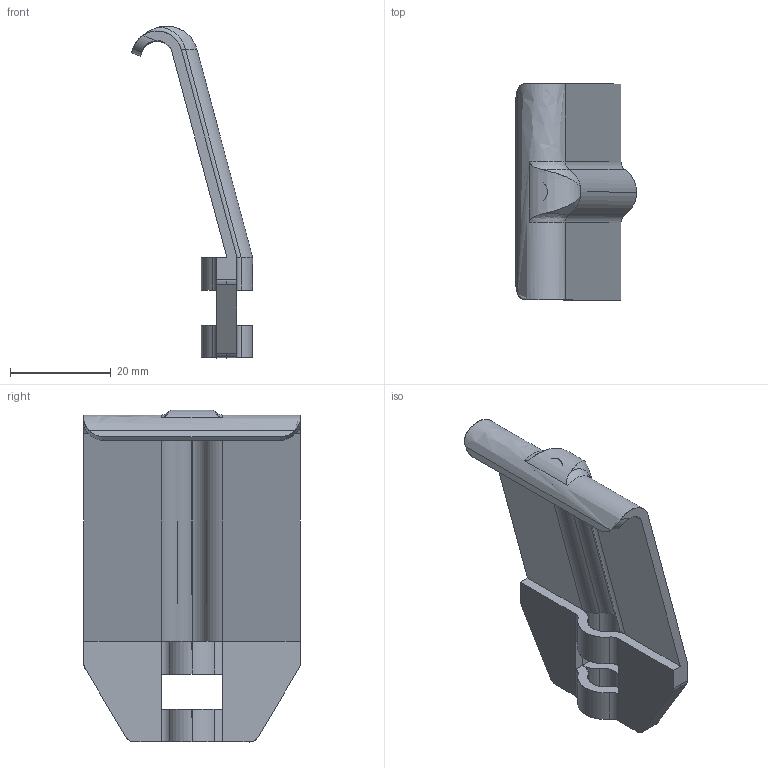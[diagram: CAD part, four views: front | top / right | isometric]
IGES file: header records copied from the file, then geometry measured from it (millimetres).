
Start section: SolidWorks IGES FILE using analytic representation for surfaces
Global section: file name: C:\Documents and Settings\lecoutey\Bureau\GR 78\57.910.10.IGS; native system: SolidWorks 2004 by SolidWorks Corporation; preprocessor: Version 5.3; author: lecoutey; date: 050404.180619; units: millimetre
Bounding box: 24.09 x 43 x 66.01 mm (x, y, z)
Surface area: 7421.6 mm2 (no closed solid volume)
Topology: 0 solids, 0 shells, 81 faces, 822 edges, 822 vertices
Faces by surface type: bspline 46, revolution 35
